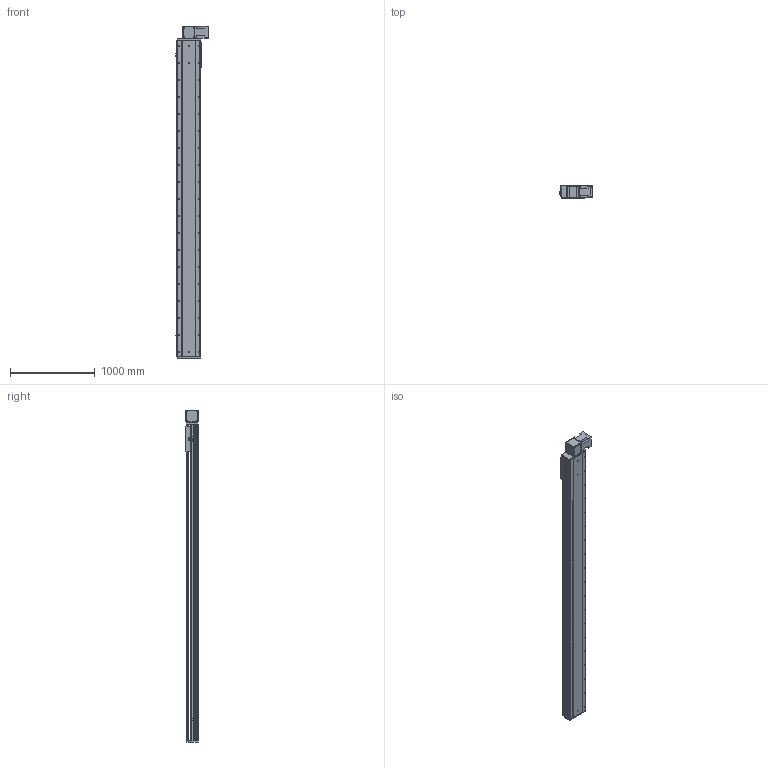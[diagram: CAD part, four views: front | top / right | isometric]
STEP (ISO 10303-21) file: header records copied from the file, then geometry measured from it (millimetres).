
FILE_DESCRIPTION (( 'STEP AP214' ), '1' );
FILE_NAME ('RTB28S-XX-3300-BL-M100-XX-C4.STEP', '2025-12-22T02:38:24', ( '' ), ( '' ), 'SwSTEP 2.0', 'SolidWorks 2018', '' );
FILE_SCHEMA (( 'AUTOMOTIVE_DESIGN' ));
Length unit declared in the file: millimetre
Products named in the file (4): RTB28S-GY-004^RTB28S-XX-XX-BL-M100-XX-C4; RTB28S-XX-3300-BL-M100-XX-C4; RTB28S-GY-011^RTB28S-XX-XX-BL-M100-XX-C4; RTB28S-GY-008^RTB28S-XX-XX-BL-M100-XX-C4
Assembly tree (3 placements, depth 2):
  RTB28S-XX-3300-BL-M100-XX-C4
    RTB28S-GY-011^RTB28S-XX-XX-BL-M100-XX-C4
    RTB28S-GY-004^RTB28S-XX-XX-BL-M100-XX-C4
    RTB28S-GY-008^RTB28S-XX-XX-BL-M100-XX-C4
Bounding box: 380.7 x 145 x 3907 mm (x, y, z)
Volume: 65840875.3 mm3; surface area: 6128543.4 mm2
Topology: 3 solids, 4 shells, 898 faces, 2418 edges, 1548 vertices
Faces by surface type: cylinder 447, plane 367, cone 80, torus 4
Entity records: 34859 total; most frequent: CARTESIAN_POINT 6652, DIRECTION 5148, ORIENTED_EDGE 4772, EDGE_CURVE 2386, AXIS2_PLACEMENT_3D 1904, VERTEX_POINT 1548, LINE 1340, VECTOR 1340
